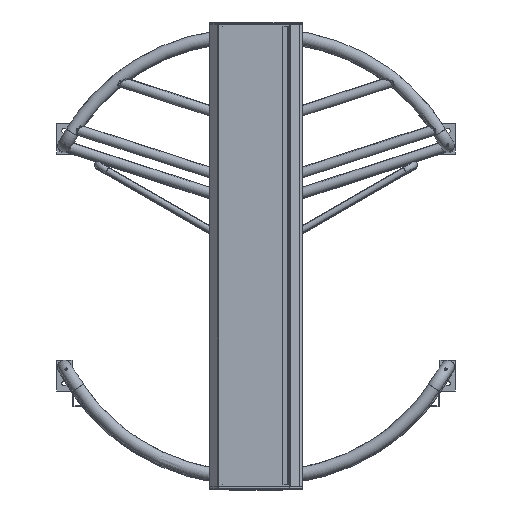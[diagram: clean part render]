
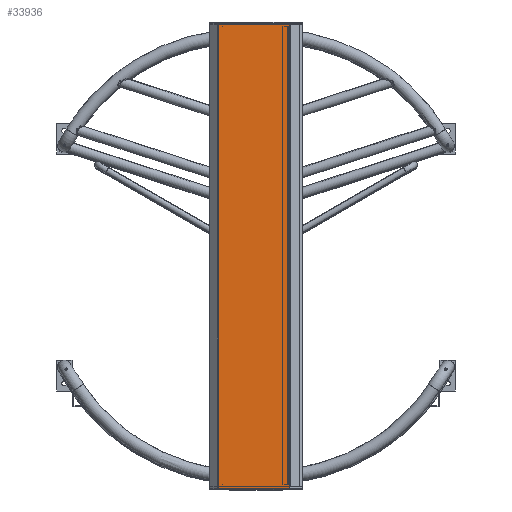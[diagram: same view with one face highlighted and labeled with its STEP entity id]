
A CAD part, top view. The second image highlights one B-rep face of the part: STEP entity #33936.
In plain terms, the highlighted planar face has unit normal (0, 0, 1).
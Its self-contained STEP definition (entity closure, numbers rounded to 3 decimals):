
#3091=LINE('',#85034,#5107);
#3113=LINE('',#85090,#5129);
#3125=LINE('',#85125,#5141);
#3144=LINE('',#85165,#5160);
#3168=LINE('',#85213,#5184);
#3170=LINE('',#85216,#5186);
#3173=LINE('',#85224,#5189);
#3174=LINE('',#85225,#5190);
#5107=VECTOR('',#47815,1000.);
#5129=VECTOR('',#47857,1000.);
#5141=VECTOR('',#47887,1000.);
#5160=VECTOR('',#47926,1000.);
#5184=VECTOR('',#47978,1000.);
#5186=VECTOR('',#47982,1000.);
#5189=VECTOR('',#47995,1000.);
#5190=VECTOR('',#47996,1000.);
#13624=ORIENTED_EDGE('',*,*,#18536,.F.);
#13625=ORIENTED_EDGE('',*,*,#18503,.T.);
#13626=ORIENTED_EDGE('',*,*,#18533,.F.);
#13627=ORIENTED_EDGE('',*,*,#18462,.T.);
#13628=ORIENTED_EDGE('',*,*,#18531,.F.);
#13629=ORIENTED_EDGE('',*,*,#18479,.T.);
#13630=ORIENTED_EDGE('',*,*,#18537,.F.);
#13631=ORIENTED_EDGE('',*,*,#18436,.T.);
#13632=ORIENTED_EDGE('',*,*,#18413,.F.);
#13633=ORIENTED_EDGE('',*,*,#18411,.F.);
#18411=EDGE_CURVE('',#21825,#21825,#23370,.T.);
#18413=EDGE_CURVE('',#21827,#21827,#23372,.T.);
#18436=EDGE_CURVE('',#21849,#21850,#3091,.T.);
#18462=EDGE_CURVE('',#21873,#21874,#3113,.T.);
#18479=EDGE_CURVE('',#21878,#21857,#3125,.T.);
#18503=EDGE_CURVE('',#21854,#21881,#3144,.T.);
#18531=EDGE_CURVE('',#21878,#21874,#3168,.T.);
#18533=EDGE_CURVE('',#21873,#21881,#3170,.T.);
#18536=EDGE_CURVE('',#21854,#21850,#3173,.T.);
#18537=EDGE_CURVE('',#21849,#21857,#3174,.T.);
#21825=VERTEX_POINT('',#84979);
#21827=VERTEX_POINT('',#84984);
#21849=VERTEX_POINT('',#85035);
#21850=VERTEX_POINT('',#85036);
#21854=VERTEX_POINT('',#85046);
#21857=VERTEX_POINT('',#85053);
#21873=VERTEX_POINT('',#85091);
#21874=VERTEX_POINT('',#85092);
#21878=VERTEX_POINT('',#85102);
#21881=VERTEX_POINT('',#85109);
#23370=CIRCLE('',#39138,0.05);
#23372=CIRCLE('',#39141,0.05);
#26656=EDGE_LOOP('',(#13624,#13625,#13626,#13627,#13628,#13629,#13630,#13631));
#26657=EDGE_LOOP('',(#13632));
#26658=EDGE_LOOP('',(#13633));
#30283=FACE_BOUND('',#26656,.T.);
#30284=FACE_BOUND('',#26657,.T.);
#30285=FACE_BOUND('',#26658,.T.);
#31925=PLANE('',#39198);
#33936=ADVANCED_FACE('',(#30283,#30284,#30285),#31925,.F.);
#39138=AXIS2_PLACEMENT_3D('',#84978,#47771,#47772);
#39141=AXIS2_PLACEMENT_3D('',#84983,#47777,#47778);
#39198=AXIS2_PLACEMENT_3D('',#85223,#47993,#47994);
#47771=DIRECTION('',(0.,0.,1.));
#47772=DIRECTION('',(0.,-1.,0.));
#47777=DIRECTION('',(0.,0.,1.));
#47778=DIRECTION('',(0.,-1.,0.));
#47815=DIRECTION('',(-1.,0.,0.));
#47857=DIRECTION('',(1.,0.,0.));
#47887=DIRECTION('',(0.,1.,0.));
#47926=DIRECTION('',(0.,-1.,0.));
#47978=DIRECTION('',(-1.,0.,0.));
#47982=DIRECTION('',(-1.,0.,0.));
#47993=DIRECTION('',(0.,0.,-1.));
#47994=DIRECTION('',(1.,0.,0.));
#47995=DIRECTION('',(1.,0.,0.));
#47996=DIRECTION('',(1.,0.,0.));
#84978=CARTESIAN_POINT('',(-108.662,-27.,2219.988));
#84979=CARTESIAN_POINT('',(-108.662,-27.05,2219.988));
#84983=CARTESIAN_POINT('',(-108.662,1451.,2219.988));
#84984=CARTESIAN_POINT('',(-108.662,1450.95,2219.988));
#85034=CARTESIAN_POINT('',(107.128,1463.5,2219.988));
#85035=CARTESIAN_POINT('',(107.128,1463.5,2219.988));
#85036=CARTESIAN_POINT('',(-121.489,1463.5,2219.988));
#85046=CARTESIAN_POINT('',(-121.491,1463.5,2219.988));
#85053=CARTESIAN_POINT('',(107.13,1463.5,2219.988));
#85090=CARTESIAN_POINT('',(-121.489,-39.5,2219.988));
#85091=CARTESIAN_POINT('',(-121.489,-39.5,2219.988));
#85092=CARTESIAN_POINT('',(107.128,-39.5,2219.988));
#85102=CARTESIAN_POINT('',(107.13,-39.5,2219.988));
#85109=CARTESIAN_POINT('',(-121.491,-39.5,2219.988));
#85125=CARTESIAN_POINT('',(107.13,-41.5,2219.988));
#85165=CARTESIAN_POINT('',(-121.491,1465.5,2219.988));
#85213=CARTESIAN_POINT('',(-121.489,-39.5,2219.988));
#85216=CARTESIAN_POINT('',(-121.489,-39.5,2219.988));
#85223=CARTESIAN_POINT('',(-122.274,-41.5,2219.988));
#85224=CARTESIAN_POINT('',(107.128,1463.5,2219.988));
#85225=CARTESIAN_POINT('',(107.128,1463.5,2219.988));
